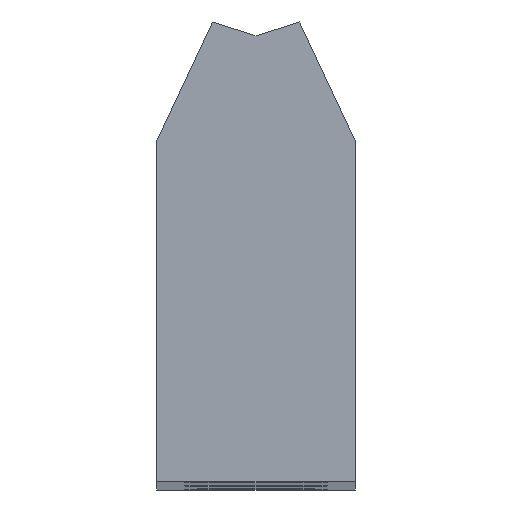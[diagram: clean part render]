
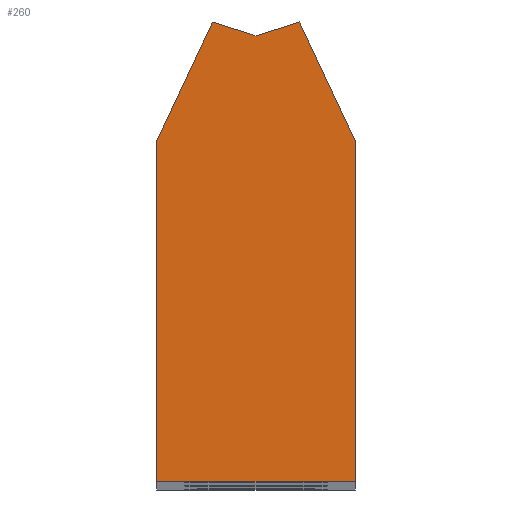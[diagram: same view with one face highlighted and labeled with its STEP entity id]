
A CAD part, top view. The second image highlights one B-rep face of the part: STEP entity #260.
In plain terms, the highlighted planar face has unit normal (0, 0, 1).
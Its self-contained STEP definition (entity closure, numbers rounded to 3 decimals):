
#79 = DIRECTION ( 'NONE',  ( 0., -1., 0. ) ) ;
#81 = ORIENTED_EDGE ( 'NONE', *, *, #2425, .T. ) ;
#113 = VERTEX_POINT ( 'NONE', #676 ) ;
#173 = VECTOR ( 'NONE', #1954, 1000. ) ;
#181 = VECTOR ( 'NONE', #2237, 1000. ) ;
#239 = DIRECTION ( 'NONE',  ( -0.954, 0.301, 0. ) ) ;
#260 = ADVANCED_FACE ( 'NONE', ( #1292 ), #2354, .T. ) ;
#396 = ORIENTED_EDGE ( 'NONE', *, *, #500, .T. ) ;
#446 = CARTESIAN_POINT ( 'NONE',  ( 12.5, 0., 299.75 ) ) ;
#448 = CARTESIAN_POINT ( 'NONE',  ( 12.5, 42.995, 299.75 ) ) ;
#483 = EDGE_CURVE ( 'NONE', #2133, #2149, #2220, .T. ) ;
#500 = EDGE_CURVE ( 'NONE', #1418, #2133, #1184, .T. ) ;
#510 = LINE ( 'NONE', #2178, #878 ) ;
#554 = CARTESIAN_POINT ( 'NONE',  ( -12.5, 42.995, 299.75 ) ) ;
#569 = ORIENTED_EDGE ( 'NONE', *, *, #2903, .T. ) ;
#664 = CARTESIAN_POINT ( 'NONE',  ( 5.5, 58.006, 299.75 ) ) ;
#676 = CARTESIAN_POINT ( 'NONE',  ( -5.5, 58.006, 299.75 ) ) ;
#682 = LINE ( 'NONE', #880, #1712 ) ;
#714 = EDGE_CURVE ( 'NONE', #2183, #113, #510, .T. ) ;
#759 = ORIENTED_EDGE ( 'NONE', *, *, #714, .T. ) ;
#815 = AXIS2_PLACEMENT_3D ( 'NONE', #970, #1539, #1253 ) ;
#841 = LINE ( 'NONE', #1347, #1247 ) ;
#875 = CARTESIAN_POINT ( 'NONE',  ( -12.5, 0., 299.75 ) ) ;
#878 = VECTOR ( 'NONE', #239, 1000. ) ;
#880 = CARTESIAN_POINT ( 'NONE',  ( -12.5, 42.995, 299.75 ) ) ;
#970 = CARTESIAN_POINT ( 'NONE',  ( 0., 0., 299.75 ) ) ;
#1184 = LINE ( 'NONE', #3060, #1331 ) ;
#1197 = CARTESIAN_POINT ( 'NONE',  ( -5.5, 58.006, 299.75 ) ) ;
#1247 = VECTOR ( 'NONE', #3017, 1000. ) ;
#1253 = DIRECTION ( 'NONE',  ( 1., 0., 0. ) ) ;
#1292 = FACE_OUTER_BOUND ( 'NONE', #3450, .T. ) ;
#1331 = VECTOR ( 'NONE', #3082, 1000. ) ;
#1347 = CARTESIAN_POINT ( 'NONE',  ( 5.5, 58.006, 299.75 ) ) ;
#1418 = VERTEX_POINT ( 'NONE', #446 ) ;
#1475 = CARTESIAN_POINT ( 'NONE',  ( 12.5, 42.995, 299.75 ) ) ;
#1539 = DIRECTION ( 'NONE',  ( 0., 0., 1. ) ) ;
#1712 = VECTOR ( 'NONE', #79, 1000. ) ;
#1856 = ORIENTED_EDGE ( 'NONE', *, *, #483, .T. ) ;
#1954 = DIRECTION ( 'NONE',  ( 1., 0., 0. ) ) ;
#1969 = VERTEX_POINT ( 'NONE', #2787 ) ;
#2044 = ORIENTED_EDGE ( 'NONE', *, *, #2376, .T. ) ;
#2133 = VERTEX_POINT ( 'NONE', #448 ) ;
#2149 = VERTEX_POINT ( 'NONE', #664 ) ;
#2178 = CARTESIAN_POINT ( 'NONE',  ( 0., 56.272, 299.75 ) ) ;
#2183 = VERTEX_POINT ( 'NONE', #2392 ) ;
#2220 = LINE ( 'NONE', #1475, #2853 ) ;
#2237 = DIRECTION ( 'NONE',  ( -0.423, -0.906, 0. ) ) ;
#2251 = VERTEX_POINT ( 'NONE', #554 ) ;
#2354 = PLANE ( 'NONE',  #815 ) ;
#2376 = EDGE_CURVE ( 'NONE', #2149, #2183, #841, .T. ) ;
#2392 = CARTESIAN_POINT ( 'NONE',  ( 0., 56.272, 299.75 ) ) ;
#2425 = EDGE_CURVE ( 'NONE', #113, #2251, #3219, .T. ) ;
#2479 = LINE ( 'NONE', #875, #173 ) ;
#2513 = EDGE_CURVE ( 'NONE', #2251, #1969, #682, .T. ) ;
#2787 = CARTESIAN_POINT ( 'NONE',  ( -12.5, 0., 299.75 ) ) ;
#2853 = VECTOR ( 'NONE', #3322, 1000. ) ;
#2870 = ORIENTED_EDGE ( 'NONE', *, *, #2513, .T. ) ;
#2903 = EDGE_CURVE ( 'NONE', #1969, #1418, #2479, .T. ) ;
#3017 = DIRECTION ( 'NONE',  ( -0.954, -0.301, 0. ) ) ;
#3060 = CARTESIAN_POINT ( 'NONE',  ( 12.5, 0., 299.75 ) ) ;
#3082 = DIRECTION ( 'NONE',  ( 0., 1., 0. ) ) ;
#3219 = LINE ( 'NONE', #1197, #181 ) ;
#3322 = DIRECTION ( 'NONE',  ( -0.423, 0.906, 0. ) ) ;
#3450 = EDGE_LOOP ( 'NONE', ( #759, #81, #2870, #569, #396, #1856, #2044 ) ) ;
